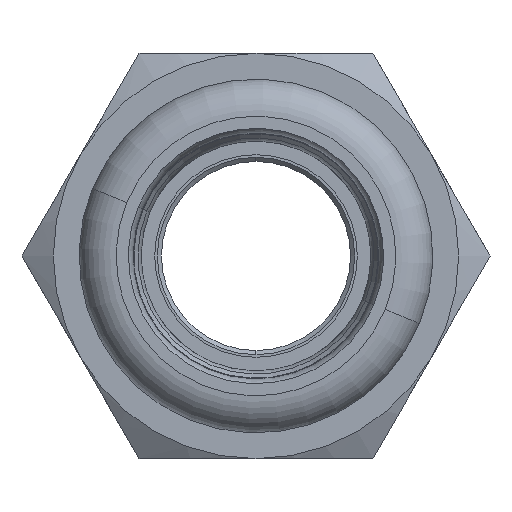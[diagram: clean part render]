
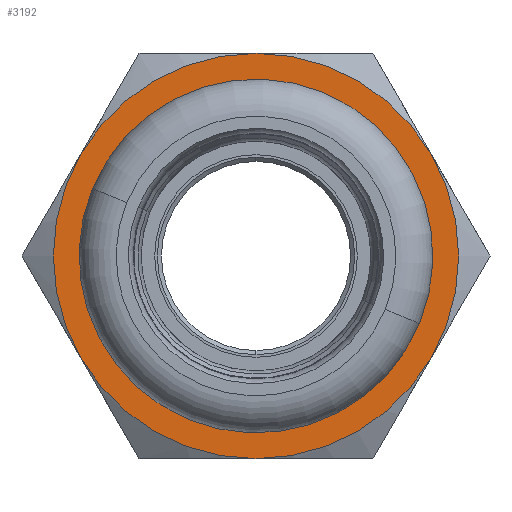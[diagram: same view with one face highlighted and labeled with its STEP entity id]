
A CAD part, left-side view. The second image highlights one B-rep face of the part: STEP entity #3192.
In plain terms, the highlighted planar face has unit normal (-1, 0, 0) as drawn and (0, 1, 0) by its records, which use the part's own axes.
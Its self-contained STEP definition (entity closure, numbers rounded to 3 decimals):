
#10 = CIRCLE ( 'NONE', #2991, 15. ) ;
#45 = VERTEX_POINT ( 'NONE', #1649 ) ;
#122 = DIRECTION ( 'NONE',  ( 0., 1., 0. ) ) ;
#206 = ORIENTED_EDGE ( 'NONE', *, *, #3665, .F. ) ;
#224 = DIRECTION ( 'NONE',  ( 0., 1., 0. ) ) ;
#232 = AXIS2_PLACEMENT_3D ( 'NONE', #1426, #3433, #3147 ) ;
#236 = CARTESIAN_POINT ( 'NONE',  ( 0., 15., 0. ) ) ;
#265 = DIRECTION ( 'NONE',  ( 0., 1., 0. ) ) ;
#322 = DIRECTION ( 'NONE',  ( 0., 0., 1. ) ) ;
#323 = CIRCLE ( 'NONE', #232, 15. ) ;
#424 = EDGE_LOOP ( 'NONE', ( #3250, #206 ) ) ;
#434 = EDGE_CURVE ( 'NONE', #1579, #2688, #2274, .T. ) ;
#502 = CIRCLE ( 'NONE', #2702, 10.8 ) ;
#556 = DIRECTION ( 'NONE',  ( 0., 0., 1. ) ) ;
#732 = CARTESIAN_POINT ( 'NONE',  ( 0., 15., 0. ) ) ;
#780 = AXIS2_PLACEMENT_3D ( 'NONE', #876, #4066, #556 ) ;
#828 = ORIENTED_EDGE ( 'NONE', *, *, #3324, .T. ) ;
#854 = AXIS2_PLACEMENT_3D ( 'NONE', #4073, #3468, #1516 ) ;
#876 = CARTESIAN_POINT ( 'NONE',  ( 0., 15., 0. ) ) ;
#1129 = ORIENTED_EDGE ( 'NONE', *, *, #1624, .T. ) ;
#1169 = DIRECTION ( 'NONE',  ( 0., 0., 1. ) ) ;
#1295 = CIRCLE ( 'NONE', #780, 15. ) ;
#1309 = CIRCLE ( 'NONE', #854, 10.8 ) ;
#1388 = AXIS2_PLACEMENT_3D ( 'NONE', #1488, #224, #3721 ) ;
#1426 = CARTESIAN_POINT ( 'NONE',  ( 0., 15., 0. ) ) ;
#1458 = CIRCLE ( 'NONE', #2533, 15. ) ;
#1488 = CARTESIAN_POINT ( 'NONE',  ( 0., 15., 0. ) ) ;
#1494 = EDGE_CURVE ( 'NONE', #2873, #3691, #1458, .T. ) ;
#1515 = PLANE ( 'NONE',  #2862 ) ;
#1516 = DIRECTION ( 'NONE',  ( 0., 0., 1. ) ) ;
#1539 = ORIENTED_EDGE ( 'NONE', *, *, #1494, .T. ) ;
#1556 = CARTESIAN_POINT ( 'NONE',  ( -12.99, 15., -7.5 ) ) ;
#1579 = VERTEX_POINT ( 'NONE', #2295 ) ;
#1624 = EDGE_CURVE ( 'NONE', #3691, #3356, #1295, .T. ) ;
#1632 = DIRECTION ( 'NONE',  ( 0., 0., 1. ) ) ;
#1649 = CARTESIAN_POINT ( 'NONE',  ( -12.99, 15., 7.5 ) ) ;
#1936 = EDGE_LOOP ( 'NONE', ( #2459, #3736, #3011, #1539, #1129, #828 ) ) ;
#2040 = CARTESIAN_POINT ( 'NONE',  ( 0., 15., 0. ) ) ;
#2058 = DIRECTION ( 'NONE',  ( 0., 1., 0. ) ) ;
#2136 = VERTEX_POINT ( 'NONE', #3727 ) ;
#2274 = CIRCLE ( 'NONE', #1388, 15. ) ;
#2295 = CARTESIAN_POINT ( 'NONE',  ( 0., 15., 15. ) ) ;
#2326 = CARTESIAN_POINT ( 'NONE',  ( 0., 15., -10.8 ) ) ;
#2387 = FACE_BOUND ( 'NONE', #424, .T. ) ;
#2459 = ORIENTED_EDGE ( 'NONE', *, *, #3012, .T. ) ;
#2520 = CARTESIAN_POINT ( 'NONE',  ( 0., 15., -15. ) ) ;
#2533 = AXIS2_PLACEMENT_3D ( 'NONE', #3551, #2948, #1632 ) ;
#2604 = EDGE_CURVE ( 'NONE', #2136, #3049, #502, .T. ) ;
#2688 = VERTEX_POINT ( 'NONE', #3311 ) ;
#2702 = AXIS2_PLACEMENT_3D ( 'NONE', #2040, #2058, #2997 ) ;
#2862 = AXIS2_PLACEMENT_3D ( 'NONE', #236, #265, #1169 ) ;
#2873 = VERTEX_POINT ( 'NONE', #3039 ) ;
#2884 = DIRECTION ( 'NONE',  ( 0., 1., 0. ) ) ;
#2948 = DIRECTION ( 'NONE',  ( 0., 1., 0. ) ) ;
#2991 = AXIS2_PLACEMENT_3D ( 'NONE', #732, #122, #3331 ) ;
#2997 = DIRECTION ( 'NONE',  ( 0., 0., 1. ) ) ;
#3011 = ORIENTED_EDGE ( 'NONE', *, *, #3642, .T. ) ;
#3012 = EDGE_CURVE ( 'NONE', #45, #1579, #10, .T. ) ;
#3039 = CARTESIAN_POINT ( 'NONE',  ( 12.99, 15., -7.5 ) ) ;
#3049 = VERTEX_POINT ( 'NONE', #2326 ) ;
#3147 = DIRECTION ( 'NONE',  ( 0., 0., 1. ) ) ;
#3192 = ADVANCED_FACE ( 'NONE', ( #2387, #3458 ), #1515, .T. ) ;
#3250 = ORIENTED_EDGE ( 'NONE', *, *, #2604, .F. ) ;
#3311 = CARTESIAN_POINT ( 'NONE',  ( 12.99, 15., 7.5 ) ) ;
#3324 = EDGE_CURVE ( 'NONE', #3356, #45, #4089, .T. ) ;
#3331 = DIRECTION ( 'NONE',  ( 0., 0., 1. ) ) ;
#3356 = VERTEX_POINT ( 'NONE', #1556 ) ;
#3433 = DIRECTION ( 'NONE',  ( 0., 1., 0. ) ) ;
#3458 = FACE_OUTER_BOUND ( 'NONE', #1936, .T. ) ;
#3468 = DIRECTION ( 'NONE',  ( 0., 1., 0. ) ) ;
#3505 = AXIS2_PLACEMENT_3D ( 'NONE', #3824, #2884, #322 ) ;
#3551 = CARTESIAN_POINT ( 'NONE',  ( 0., 15., 0. ) ) ;
#3642 = EDGE_CURVE ( 'NONE', #2688, #2873, #323, .T. ) ;
#3665 = EDGE_CURVE ( 'NONE', #3049, #2136, #1309, .T. ) ;
#3691 = VERTEX_POINT ( 'NONE', #2520 ) ;
#3721 = DIRECTION ( 'NONE',  ( 0., 0., 1. ) ) ;
#3727 = CARTESIAN_POINT ( 'NONE',  ( 0., 15., 10.8 ) ) ;
#3736 = ORIENTED_EDGE ( 'NONE', *, *, #434, .T. ) ;
#3824 = CARTESIAN_POINT ( 'NONE',  ( 0., 15., 0. ) ) ;
#4066 = DIRECTION ( 'NONE',  ( 0., 1., 0. ) ) ;
#4073 = CARTESIAN_POINT ( 'NONE',  ( 0., 15., 0. ) ) ;
#4089 = CIRCLE ( 'NONE', #3505, 15. ) ;
